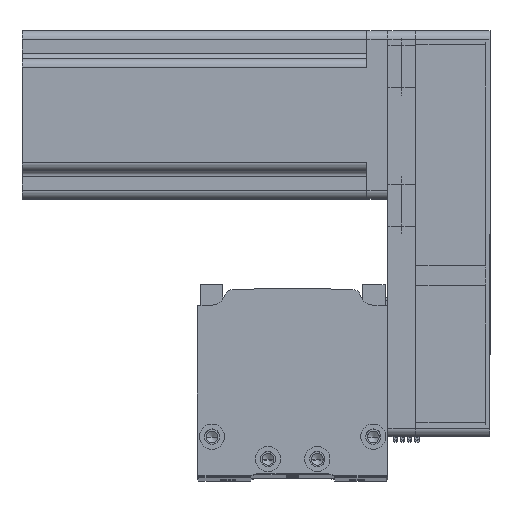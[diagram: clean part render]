
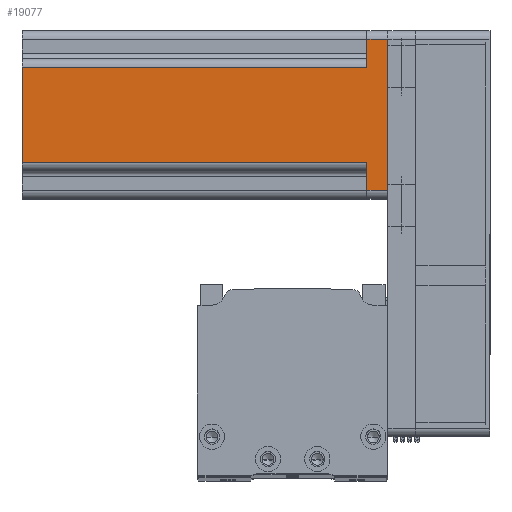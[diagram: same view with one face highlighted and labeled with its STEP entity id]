
A CAD part, top view. The second image highlights one B-rep face of the part: STEP entity #19077.
In plain terms, the highlighted planar face has unit normal (0, 0, 1) as drawn and (0, -1, 0) by its records, which use the part's own axes.
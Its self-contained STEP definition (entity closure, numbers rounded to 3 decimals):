
#1226 = DIRECTION ( 'NONE',  ( 0., 0., -1. ) ) ;
#2548 = CARTESIAN_POINT ( 'NONE',  ( 30., -30., 0. ) ) ;
#3582 = LINE ( 'NONE', #22613, #13739 ) ;
#4343 = LINE ( 'NONE', #19406, #43856 ) ;
#4993 = ORIENTED_EDGE ( 'NONE', *, *, #19467, .T. ) ;
#5085 = CARTESIAN_POINT ( 'NONE',  ( -17., -30., 130.7 ) ) ;
#5855 = EDGE_CURVE ( 'NONE', #45313, #10046, #4343, .T. ) ;
#5999 = VERTEX_POINT ( 'NONE', #23051 ) ;
#8160 = DIRECTION ( 'NONE',  ( -1., 0., 0. ) ) ;
#8460 = LINE ( 'NONE', #5085, #48069 ) ;
#9763 = PLANE ( 'NONE',  #26101 ) ;
#10046 = VERTEX_POINT ( 'NONE', #44483 ) ;
#10673 = EDGE_CURVE ( 'NONE', #5999, #14968, #12505, .T. ) ;
#12495 = CARTESIAN_POINT ( 'NONE',  ( 27., -30., 0. ) ) ;
#12505 = LINE ( 'NONE', #24597, #41884 ) ;
#12578 = ORIENTED_EDGE ( 'NONE', *, *, #40060, .T. ) ;
#13739 = VECTOR ( 'NONE', #49464, 1000. ) ;
#14303 = CARTESIAN_POINT ( 'NONE',  ( 27., -30., 130.7 ) ) ;
#14968 = VERTEX_POINT ( 'NONE', #25765 ) ;
#17268 = VECTOR ( 'NONE', #23883, 1000. ) ;
#17625 = DIRECTION ( 'NONE',  ( 0., 1., 0. ) ) ;
#17789 = LINE ( 'NONE', #14303, #28004 ) ;
#18145 = LINE ( 'NONE', #2548, #28346 ) ;
#18493 = ORIENTED_EDGE ( 'NONE', *, *, #10673, .F. ) ;
#19077 = ADVANCED_FACE ( 'NONE', ( #26556 ), #9763, .F. ) ;
#19157 = ORIENTED_EDGE ( 'NONE', *, *, #40114, .F. ) ;
#19406 = CARTESIAN_POINT ( 'NONE',  ( -27., -30., 130.7 ) ) ;
#19451 = DIRECTION ( 'NONE',  ( 0., 0., -1. ) ) ;
#19467 = EDGE_CURVE ( 'NONE', #5999, #45403, #8460, .T. ) ;
#21685 = VERTEX_POINT ( 'NONE', #12495 ) ;
#21926 = EDGE_CURVE ( 'NONE', #21685, #24749, #17789, .T. ) ;
#22613 = CARTESIAN_POINT ( 'NONE',  ( 17., -30., 130.7 ) ) ;
#23051 = CARTESIAN_POINT ( 'NONE',  ( -17., -30., 130.7 ) ) ;
#23718 = CARTESIAN_POINT ( 'NONE',  ( -20., -30., 7.5 ) ) ;
#23883 = DIRECTION ( 'NONE',  ( 1., 0., 0. ) ) ;
#24597 = CARTESIAN_POINT ( 'NONE',  ( 30., -30., 130.7 ) ) ;
#24749 = VERTEX_POINT ( 'NONE', #42354 ) ;
#25765 = CARTESIAN_POINT ( 'NONE',  ( 17., -30., 130.7 ) ) ;
#26101 = AXIS2_PLACEMENT_3D ( 'NONE', #40622, #17625, #44444 ) ;
#26556 = FACE_OUTER_BOUND ( 'NONE', #31854, .T. ) ;
#28004 = VECTOR ( 'NONE', #37305, 1000. ) ;
#28280 = ORIENTED_EDGE ( 'NONE', *, *, #21926, .T. ) ;
#28346 = VECTOR ( 'NONE', #40770, 1000. ) ;
#29158 = EDGE_CURVE ( 'NONE', #10046, #21685, #18145, .T. ) ;
#31854 = EDGE_LOOP ( 'NONE', ( #18493, #4993, #19157, #43418, #44147, #28280, #12578, #34183 ) ) ;
#32347 = DIRECTION ( 'NONE',  ( 1., 0., 0. ) ) ;
#32590 = CARTESIAN_POINT ( 'NONE',  ( 17., -30., 7.5 ) ) ;
#33588 = CARTESIAN_POINT ( 'NONE',  ( -27., -30., 7.5 ) ) ;
#34183 = ORIENTED_EDGE ( 'NONE', *, *, #49561, .T. ) ;
#34699 = VECTOR ( 'NONE', #8160, 1000. ) ;
#35681 = VERTEX_POINT ( 'NONE', #32590 ) ;
#37305 = DIRECTION ( 'NONE',  ( 0., 0., 1. ) ) ;
#40060 = EDGE_CURVE ( 'NONE', #24749, #35681, #44812, .T. ) ;
#40114 = EDGE_CURVE ( 'NONE', #45313, #45403, #46711, .T. ) ;
#40622 = CARTESIAN_POINT ( 'NONE',  ( 30., -30., 130.7 ) ) ;
#40770 = DIRECTION ( 'NONE',  ( 1., 0., 0. ) ) ;
#41884 = VECTOR ( 'NONE', #32347, 1000. ) ;
#42354 = CARTESIAN_POINT ( 'NONE',  ( 27., -30., 7.5 ) ) ;
#42517 = CARTESIAN_POINT ( 'NONE',  ( 20., -30., 7.5 ) ) ;
#43418 = ORIENTED_EDGE ( 'NONE', *, *, #5855, .T. ) ;
#43856 = VECTOR ( 'NONE', #19451, 1000. ) ;
#44147 = ORIENTED_EDGE ( 'NONE', *, *, #29158, .T. ) ;
#44444 = DIRECTION ( 'NONE',  ( -1., 0., 0. ) ) ;
#44483 = CARTESIAN_POINT ( 'NONE',  ( -27., -30., 0. ) ) ;
#44812 = LINE ( 'NONE', #42517, #34699 ) ;
#45313 = VERTEX_POINT ( 'NONE', #33588 ) ;
#45403 = VERTEX_POINT ( 'NONE', #49490 ) ;
#46711 = LINE ( 'NONE', #23718, #17268 ) ;
#48069 = VECTOR ( 'NONE', #1226, 1000. ) ;
#49464 = DIRECTION ( 'NONE',  ( 0., 0., 1. ) ) ;
#49490 = CARTESIAN_POINT ( 'NONE',  ( -17., -30., 7.5 ) ) ;
#49561 = EDGE_CURVE ( 'NONE', #35681, #14968, #3582, .T. ) ;
